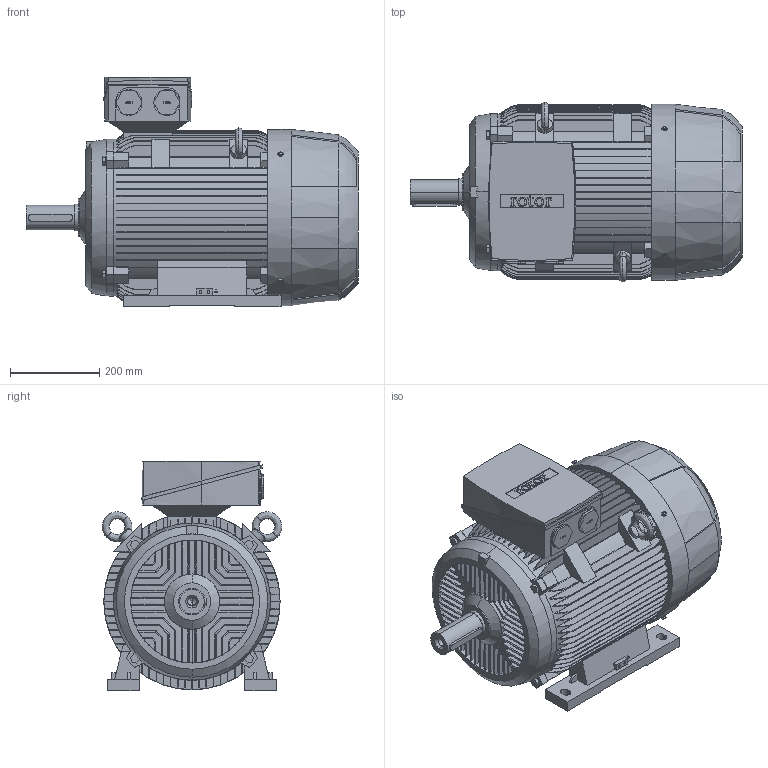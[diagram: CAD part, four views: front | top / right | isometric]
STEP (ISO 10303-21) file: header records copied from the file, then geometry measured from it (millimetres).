
FILE_DESCRIPTION (( 'STEP AP203' ), '1' );
FILE_NAME ('6RN200L04E36 IM1041.STEP', '2017-01-10T13:11:05', ( 'rotor' ), ( 'Hewlett-Packard Company' ), 'SwSTEP 2.0', 'SolidWorks 2015', '' );
FILE_SCHEMA (( 'CONFIG_CONTROL_DESIGN' ));
Products named in the file (1): 6RN200L04E36 IM1041
Bounding box: 746 x 403.47 x 515 mm (x, y, z)
Volume: 71237589.9 mm3; surface area: 2159150.3 mm2
Topology: 1 solids, 1 shells, 1380 faces, 3902 edges, 2563 vertices
Faces by surface type: plane 836, cylinder 284, bspline 227, cone 33
Entity records: 54261 total; most frequent: CARTESIAN_POINT 21232, ORIENTED_EDGE 7800, DIRECTION 5647, EDGE_CURVE 3900, VERTEX_POINT 2563, LINE 2093, VECTOR 2093, AXIS2_PLACEMENT_3D 1777
